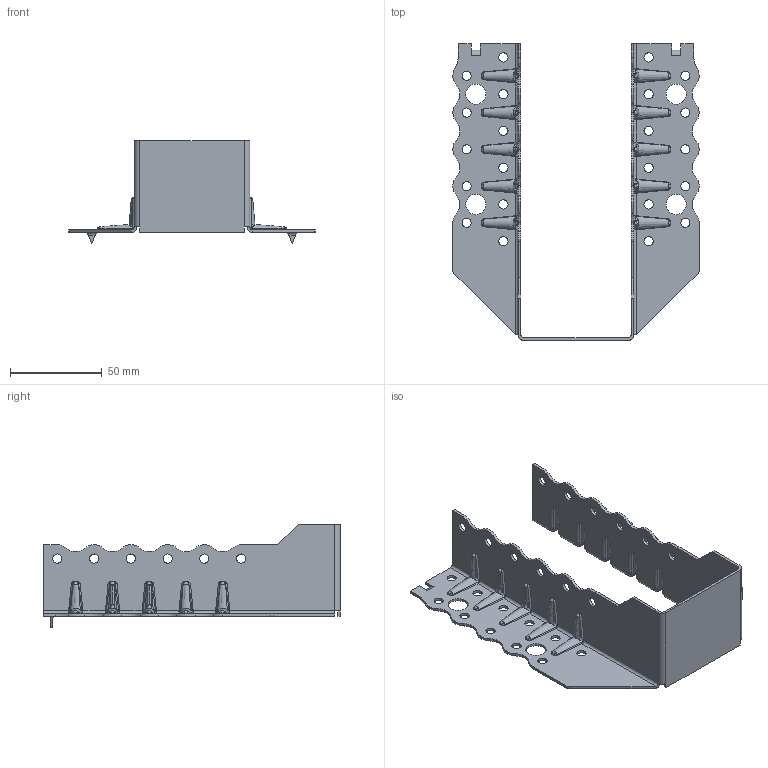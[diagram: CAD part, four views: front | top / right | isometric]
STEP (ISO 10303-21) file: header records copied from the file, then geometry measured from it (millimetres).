
FILE_DESCRIPTION (( 'STEP AP203' ), '1' );
FILE_NAME ('30616TOPK.STEP', '2020-04-06T13:37:51', ( '' ), ( '' ), 'SwSTEP 2.0', 'SolidWorks 2013', '' );
FILE_SCHEMA (( 'CONFIG_CONTROL_DESIGN' ));
Length unit declared in the file: millimetre
Products named in the file (1): 30616TOPK
Bounding box: 134 x 161.5 x 56 mm (x, y, z)
Volume: 36740.5 mm3; surface area: 51593.6 mm2
Topology: 1 solids, 1 shells, 736 faces, 1879 edges, 1128 vertices
Faces by surface type: bspline 290, cylinder 282, plane 134, cone 30
Entity records: 46648 total; most frequent: CARTESIAN_POINT 31244, ORIENTED_EDGE 3724, DIRECTION 2258, EDGE_CURVE 1862, VERTEX_POINT 1128, EDGE_LOOP 812, B_SPLINE_CURVE_WITH_KNOTS 800, AXIS2_PLACEMENT_3D 797
